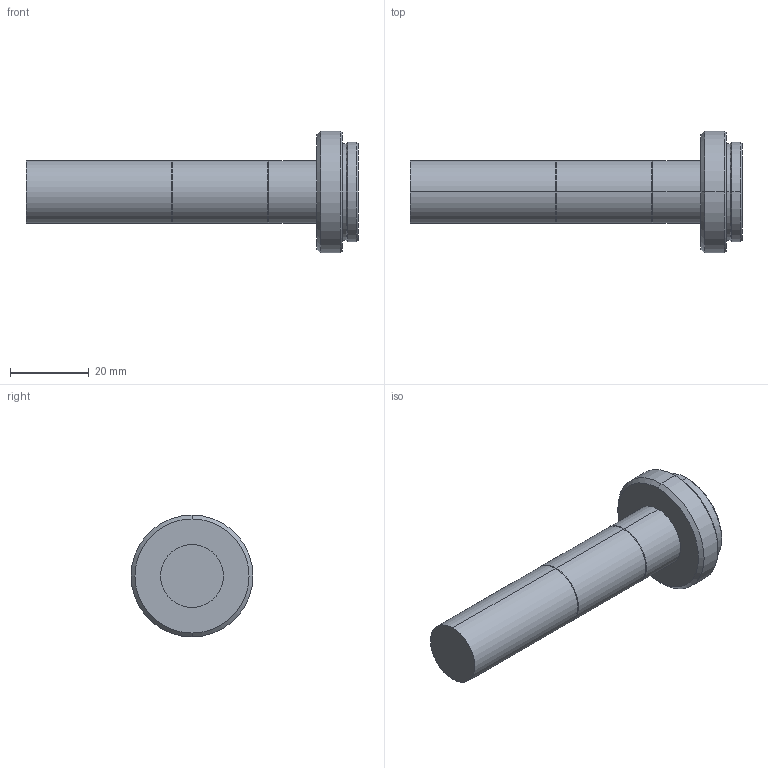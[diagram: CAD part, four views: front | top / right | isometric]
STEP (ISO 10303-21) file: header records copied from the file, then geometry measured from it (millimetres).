
FILE_DESCRIPTION (( 'STEP AP203' ), '1' );
FILE_NAME ('VS-TC1.5N-110.STEP', '2020-02-13T01:20:20', ( '' ), ( '' ), 'SwSTEP 2.0', 'SolidWorks 2017', '' );
FILE_SCHEMA (( 'CONFIG_CONTROL_DESIGN' ));
Length unit declared in the file: millimetre
Products named in the file (1): VS-TC1.5N-110
Bounding box: 84.4 x 31 x 31 mm (x, y, z)
Volume: 21686.7 mm3; surface area: 6120 mm2
Topology: 1 solids, 1 shells, 32 faces, 62 edges, 34 vertices
Faces by surface type: cone 16, cylinder 12, plane 4
Entity records: 881 total; most frequent: DIRECTION 162, CARTESIAN_POINT 129, ORIENTED_EDGE 124, AXIS2_PLACEMENT_3D 67, EDGE_CURVE 62, VERTEX_POINT 34, CIRCLE 34, EDGE_LOOP 34
